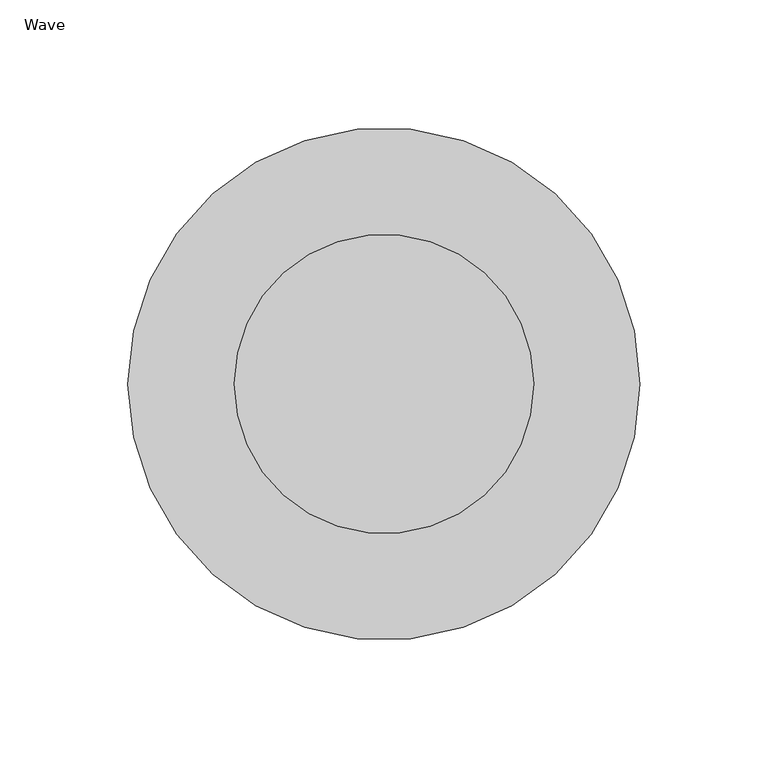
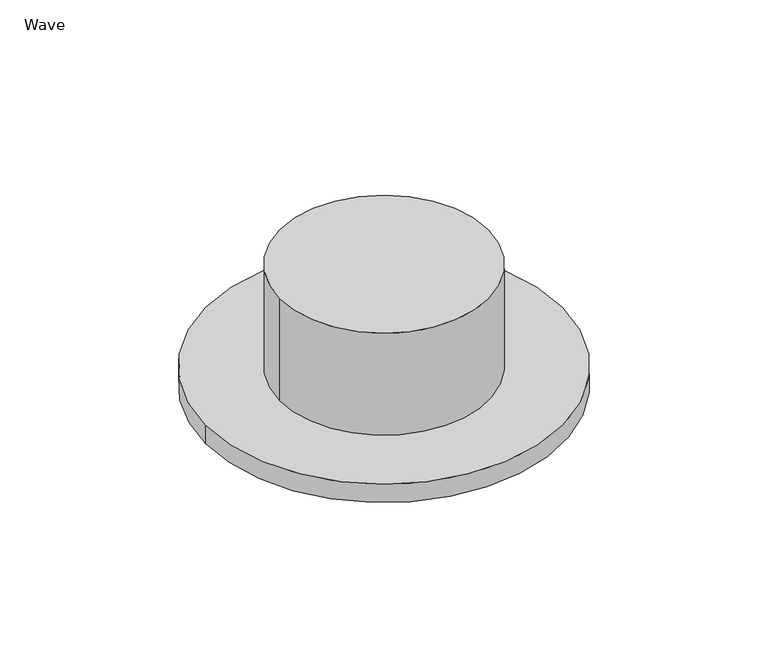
"""IFC4 building model written with IfcOpenShell, lengths in millimetres: air terminal geometry, NLRS_57_AIR_WPB_extraction air valve_M&G : Wave."""

from ifc_helpers import new_model, si_unit, point, frame, origin, origin_with_axes, origin_2d, place, context, project, spatial, circle_curve, trimmed, segment, composite_curve, outline, extrude, source, transform, mapped, element, save


def wave_6b82bb6b(model_context):
    return source(origin(), model_context, "Body", "SweptSolid", [
        extrude(outline(composite_curve([segment(trimmed(circle_curve(origin_2d(), 58.5), [point((-58.5, 0.0))], [point((58.5, 0.0))], False, "CARTESIAN"), True, "CONTINUOUS"), segment(trimmed(circle_curve(origin_2d(), 58.5), [point((58.5, 0.0))], [point((-58.5, 0.0))], False, "CARTESIAN"), True, "CONTINUOUS")], self_intersect=False)), origin_with_axes(), (0.0, 0.0, 1.0), 60.5),
        extrude(outline(composite_curve([segment(trimmed(circle_curve(origin_2d(), 100.0), [point((-100.0, 0.0))], [point((100.0, 0.0))], False, "CARTESIAN"), True, "CONTINUOUS"), segment(trimmed(circle_curve(origin_2d(), 100.0), [point((100.0, 0.0))], [point((-100.0, 0.0))], False, "CARTESIAN"), True, "CONTINUOUS")], self_intersect=False)), frame((0.0, 0.0, -11.0), z_axis=(0.0, 0.0, 1.0), x_axis=(1.0, 0.0, 0.0)), (0.0, 0.0, 1.0), 11.0),
    ])


if __name__ == "__main__":
    model = new_model("IFC4")
    model_context = context("Model", 3, world=origin())
    ifc_project = project(units=[si_unit("LENGTHUNIT", "METRE", prefix="MILLI")], contexts=[model_context])
    site = spatial("IfcSite", under=ifc_project)
    building = spatial("IfcBuilding", under=site)
    placement = place(None, origin())
    ifc_wave_shape = wave_6b82bb6b(model_context)
    element("IfcAirTerminal", 1, ObjectType="NLRS_57_AIR_WPB_extraction air valve_M&G : Wave", at=placement, inside=building, context=model_context, shape_type="MappedRepresentation", body=[
        mapped(ifc_wave_shape, transform((0.0, 0.0, 0.0), x_axis=(1.0, 0.0, 0.0), y_axis=(0.0, 1.0, 0.0), z_axis=(0.0, 0.0, 1.0))),
    ])
    save(model, "model.ifc")
